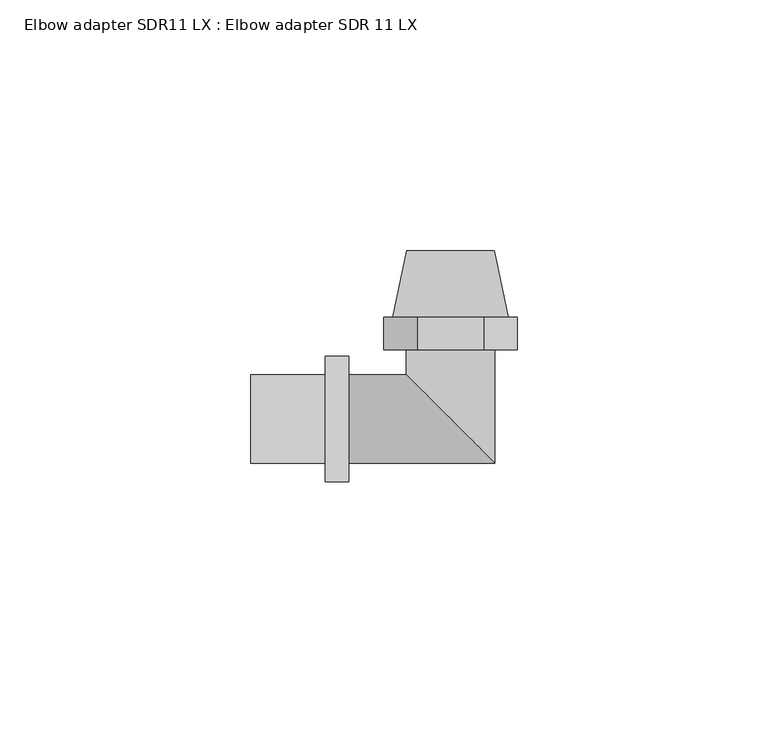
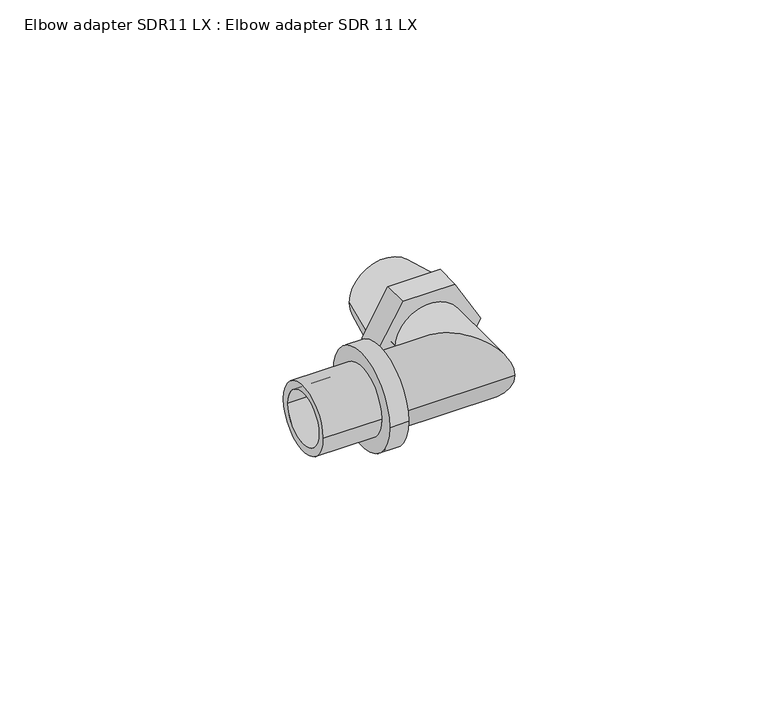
"""IFC4 building model written with IfcOpenShell, lengths in millimetres: pipe fitting geometry, Elbow adapter SDR11 LX : Elbow adapter SDR 11 LX."""

from ifc_helpers import new_model, si_unit, point, frame, origin, origin_2d, place, context, project, spatial, polyline, circle_curve, ellipse_curve, trimmed, segment, composite_curve, outline, extrude, source, transform, mapped, element, save
from ifc_brep_helpers import plane_surface, cylinder_surface, revolved_surface, advanced_brep


def elbow_adapter_sdr11_lx_elbow_adapter_sdr_11_lx_4b792a66(model_context):
    return source(origin(), model_context, "Body", "SolidModel", [
        extrude(outline(polyline([(0.0, -13.2790562), (-11.5, -6.6395281), (-11.5, 6.6395281), (0.0, 13.2790562), (11.5, 6.6395281), (11.5, -6.6395281), (0.0, -13.2790562)]), holes=[composite_curve([segment(trimmed(circle_curve(origin_2d(), 6.75), [point((-6.75, 0.0))], [point((6.75, 0.0))], True, "CARTESIAN"), True, "CONTINUOUS"), segment(trimmed(circle_curve(origin_2d(), 6.75), [point((6.75, 0.0))], [point((-6.75, 0.0))], True, "CARTESIAN"), True, "CONTINUOUS")], self_intersect=False)]), frame((0.0, 13.8, 0.0), z_axis=(0.0, 1.0, 0.0), x_axis=(0.0, 0.0, 1.0)), (0.0, 0.0, 1.0), 6.5),
        advanced_brep(
        [(8.75, 33.5, 0.0), (-8.75, 33.5, 0.0), (0.0, 33.5, 6.75), (0.0, 33.5, -6.75), (11.5, 20.3, 0.0), (-11.5, 20.3, 0.0), (0.0, 20.3, -6.75), (0.0, 20.3, 6.75)],
        [
            (0, 1, circle_curve(frame((0.0, 33.5, 0.0), z_axis=(0.0, 1.0, 0.0), x_axis=(1.0, 0.0, 0.0)), 8.75)),
            (1, 0, circle_curve(frame((0.0, 33.5, 0.0), z_axis=(0.0, 1.0, 0.0), x_axis=(-1.0, 0.0, 0.0)), 8.75)),
            (2, 3, circle_curve(frame((0.0, 33.5, 0.0), z_axis=(0.0, -1.0, 0.0), x_axis=(0.0, 0.0, 1.0)), 6.75)),
            (3, 2, circle_curve(frame((0.0, 33.5, 0.0), z_axis=(0.0, -1.0, 0.0), x_axis=(0.0, 0.0, 1.0)), 6.75)),
            (4, 5, circle_curve(frame((0.0, 20.3, 0.0), z_axis=(0.0, -1.0, 0.0), x_axis=(-1.0, 0.0, 0.0)), 11.5)),
            (5, 4, circle_curve(frame((0.0, 20.3, 0.0), z_axis=(0.0, -1.0, 0.0), x_axis=(1.0, 0.0, 0.0)), 11.5)),
            (6, 7, circle_curve(frame((0.0, 20.3, 0.0), z_axis=(0.0, 1.0, 0.0), x_axis=(0.0, 0.0, 1.0)), 6.75)),
            (7, 6, circle_curve(frame((0.0, 20.3, 0.0), z_axis=(0.0, 1.0, 0.0), x_axis=(0.0, 0.0, 1.0)), 6.75)),
            (0, 4),
            (5, 1),
            (6, 3),
            (2, 7),
        ],
        [
            plane_surface(frame((0.0, 33.5, 0.0), z_axis=(0.0, 1.0, 0.0), x_axis=(0.0, 0.0, -1.0))),
            plane_surface(frame((0.0, 20.3, 0.0), z_axis=(0.0, -1.0, 0.0), x_axis=(0.0, 0.0, -1.0))),
            revolved_surface(polyline([(8.75, 33.5, 0.0), (11.5, 20.299999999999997, 0.0)]), (0.0, 75.5, 0.0), (0.0, -1.0, 0.0)),
            revolved_surface(polyline([(-8.75, 33.5, 0.0), (-11.5, 20.299999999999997, 0.0)]), (0.0, 75.5, 0.0), (0.0, -1.0, 0.0)),
            revolved_surface(polyline([(0.0, 33.5, 6.75), (0.0, 20.3, 6.75)]), (0.0, 13.8, 0.0), (0.0, 1.0, 0.0)),
        ],
        [
            (0, [[1, 2], [3, 4]]),
            (1, [[5, 6], [7, 8]]),
            (2, [[-1, 9, -6, 10]]),
            (3, [[-2, -10, -5, -9]]),
            (4, [[11, -3, 12, -7]]),
            (4, [[-11, -8, -12, -4]]),
        ],
    ),
        advanced_brep(
        [(-20.3, -8.8, 0.0), (-20.3, 8.8, 0.0), (-20.3, -6.8, 0.0), (-20.3, 6.8, 0.0), (8.8, -8.8, 0.0), (-8.8, 8.8, 0.0), (6.8, -6.8, 0.0), (-6.8, 6.8, 0.0), (8.8, 20.3, 0.0), (-8.8, 20.3, 0.0), (6.8, 20.3, 0.0), (-6.8, 20.3, 0.0)],
        [
            (0, 1, circle_curve(frame((-20.3, 0.0, 0.0), z_axis=(-1.0, 0.0, 0.0), x_axis=(0.0, 1.0, 0.0)), 8.8)),
            (1, 0, circle_curve(frame((-20.3, 0.0, 0.0), z_axis=(-1.0, 0.0, 0.0), x_axis=(0.0, 1.0, 0.0)), 8.8)),
            (2, 3, circle_curve(frame((-20.3, 0.0, 0.0), z_axis=(1.0, 0.0, 0.0), x_axis=(0.0, 1.0, 0.0)), 6.8)),
            (3, 2, circle_curve(frame((-20.3, 0.0, 0.0), z_axis=(1.0, 0.0, 0.0), x_axis=(0.0, 1.0, 0.0)), 6.8)),
            (0, 4),
            (4, 5, ellipse_curve(frame((0.0, 0.0, 0.0), z_axis=(-0.7071067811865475, -0.7071067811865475, 0.0), x_axis=(-0.7071067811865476, 0.7071067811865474, 0.0)), 12.4450793, 8.8)),
            (5, 1),
            (5, 4, ellipse_curve(frame((0.0, 0.0, 0.0), z_axis=(-0.7071067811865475, -0.7071067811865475, 0.0), x_axis=(-0.7071067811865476, 0.7071067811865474, 0.0)), 12.4450793, 8.8)),
            (2, 6),
            (6, 7, ellipse_curve(frame((0.0, 0.0, 0.0), z_axis=(0.7071067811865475, 0.7071067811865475, 0.0), x_axis=(0.7071067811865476, -0.7071067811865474, 0.0)), 9.6166522, 6.8)),
            (7, 3),
            (7, 6, ellipse_curve(frame((0.0, 0.0, 0.0), z_axis=(0.7071067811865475, 0.7071067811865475, 0.0), x_axis=(0.7071067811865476, -0.7071067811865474, 0.0)), 9.6166522, 6.8)),
            (8, 9, circle_curve(frame((0.0, 20.3, 0.0), z_axis=(0.0, 1.0, 0.0), x_axis=(-1.0, 0.0, 0.0)), 8.8)),
            (9, 8, circle_curve(frame((0.0, 20.3, 0.0), z_axis=(0.0, 1.0, 0.0), x_axis=(-1.0, 0.0, 0.0)), 8.8)),
            (10, 11, circle_curve(frame((0.0, 20.3, 0.0), z_axis=(0.0, -1.0, 0.0), x_axis=(-1.0, 0.0, 0.0)), 6.8)),
            (11, 10, circle_curve(frame((0.0, 20.3, 0.0), z_axis=(0.0, -1.0, 0.0), x_axis=(-1.0, 0.0, 0.0)), 6.8)),
            (4, 8),
            (9, 5),
            (6, 10),
            (11, 7),
        ],
        [
            plane_surface(frame((-20.3, 0.0, 0.0), z_axis=(-1.0, 0.0, 0.0), x_axis=(0.0, 0.0, 1.0))),
            cylinder_surface(frame((-20.3, 0.0, 0.0), z_axis=(-1.0, 0.0, 0.0), x_axis=(0.0, 1.0, 0.0)), 8.8),
            revolved_surface(polyline([(6.800000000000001, 6.8, 0.0), (-20.3, 6.8, 0.0)]), (-20.3, 0.0, 0.0), (1.0, 0.0, 0.0)),
            plane_surface(frame((0.0, 20.3, 0.0), z_axis=(0.0, 1.0, 0.0), x_axis=(0.0, 0.0, 1.0))),
            cylinder_surface(frame((0.0, 0.0, 0.0), z_axis=(0.0, -1.0, 0.0), x_axis=(-1.0, 0.0, 0.0)), 8.8),
            revolved_surface(polyline([(-6.8, 20.3, 0.0), (-6.8, -6.8, 0.0)]), (0.0, 0.0, 0.0), (0.0, 1.0, 0.0)),
        ],
        [
            (0, [[1, 2], [3, 4]]),
            (1, [[-1, 5, 6, 7]]),
            (1, [[-2, -7, 8, -5]]),
            (2, [[-3, 9, 10, 11]]),
            (2, [[-4, -11, 12, -9]]),
            (3, [[13, 14], [15, 16]]),
            (4, [[-6, 17, -14, 18]]),
            (4, [[-8, -18, -13, -17]]),
            (5, [[-10, 19, -16, 20]]),
            (5, [[-12, -20, -15, -19]]),
        ],
    ),
        advanced_brep(
        [(-20.3, 12.5, 0.0), (-20.3, -12.5, 0.0), (-25.0, -12.5, 0.0), (-25.0, 12.5, 0.0), (-25.0, 8.8, 0.0), (-25.0, -8.8, 0.0), (-39.8, -8.8, 0.0), (-39.8, 8.8, 0.0), (-39.8, 6.8, 0.0), (-39.8, -6.8, 0.0), (-20.3, -6.8, 0.0), (-20.3, 6.8, 0.0)],
        [
            (0, 1, circle_curve(frame((-20.3, 0.0, 0.0), z_axis=(-1.0, 0.0, 0.0), x_axis=(0.0, -1.0, 0.0)), 12.5)),
            (1, 2),
            (2, 3, circle_curve(frame((-25.0, 0.0, 0.0), z_axis=(1.0, 0.0, 0.0), x_axis=(0.0, -1.0, 0.0)), 12.5)),
            (3, 0),
            (4, 5, circle_curve(frame((-25.0, 0.0, 0.0), z_axis=(-1.0, 0.0, 0.0), x_axis=(0.0, -1.0, 0.0)), 8.8)),
            (5, 6),
            (6, 7, circle_curve(frame((-39.8, 0.0, 0.0), z_axis=(1.0, 0.0, 0.0), x_axis=(0.0, -1.0, 0.0)), 8.8)),
            (7, 4),
            (8, 9, circle_curve(frame((-39.8, 0.0, 0.0), z_axis=(-1.0, 0.0, 0.0), x_axis=(0.0, -1.0, 0.0)), 6.8)),
            (9, 10),
            (10, 11, circle_curve(frame((-20.3, 0.0, 0.0), z_axis=(1.0, 0.0, 0.0), x_axis=(0.0, -1.0, 0.0)), 6.8)),
            (11, 8),
            (0, 1, circle_curve(frame((-20.3, 0.0, 0.0), z_axis=(1.0, 0.0, 0.0), x_axis=(0.0, 1.0, 0.0)), 12.5)),
            (10, 11, circle_curve(frame((-20.3, 0.0, 0.0), z_axis=(-1.0, 0.0, 0.0), x_axis=(0.0, 1.0, 0.0)), 6.8)),
            (3, 2, circle_curve(frame((-25.0, 0.0, 0.0), z_axis=(1.0, 0.0, 0.0), x_axis=(0.0, 1.0, 0.0)), 12.5)),
            (4, 5, circle_curve(frame((-25.0, 0.0, 0.0), z_axis=(1.0, 0.0, 0.0), x_axis=(0.0, 1.0, 0.0)), 8.8)),
            (7, 6, circle_curve(frame((-39.8, 0.0, 0.0), z_axis=(1.0, 0.0, 0.0), x_axis=(0.0, 1.0, 0.0)), 8.8)),
            (8, 9, circle_curve(frame((-39.8, 0.0, 0.0), z_axis=(1.0, 0.0, 0.0), x_axis=(0.0, 1.0, 0.0)), 6.8)),
        ],
        [
            cylinder_surface(frame((0.0, 0.0, 0.0), z_axis=(1.0, 0.0, 0.0), x_axis=(0.0, -1.0, 0.0)), 12.5),
            cylinder_surface(frame((0.0, 0.0, 0.0), z_axis=(1.0, 0.0, 0.0), x_axis=(0.0, -1.0, 0.0)), 8.8),
            revolved_surface(polyline([(-20.3, -6.8, 0.0), (-39.8, -6.8, 0.0)]), (0.0, 0.0, 0.0), (1.0, 0.0, 0.0)),
            plane_surface(frame((-20.3, 0.0, 0.0), z_axis=(1.0, 0.0, 0.0), x_axis=(0.0, 1.0, 0.0))),
            cylinder_surface(frame((0.0, 0.0, 0.0), z_axis=(1.0, 0.0, 0.0), x_axis=(0.0, 1.0, 0.0)), 12.5),
            plane_surface(frame((-25.0, 0.0, 0.0), z_axis=(-1.0, 0.0, 0.0), x_axis=(0.0, 1.0, 0.0))),
            cylinder_surface(frame((0.0, 0.0, 0.0), z_axis=(1.0, 0.0, 0.0), x_axis=(0.0, 1.0, 0.0)), 8.8),
            plane_surface(frame((-39.8, 0.0, 0.0), z_axis=(-1.0, 0.0, 0.0), x_axis=(0.0, 1.0, 0.0))),
            revolved_surface(polyline([(-20.3, 6.8, 0.0), (-39.8, 6.8, 0.0)]), (0.0, 0.0, 0.0), (1.0, 0.0, 0.0)),
        ],
        [
            (0, [[1, 2, 3, 4]]),
            (1, [[5, 6, 7, 8]]),
            (2, [[9, 10, 11, 12]]),
            (3, [[13, -1], [14, -11]]),
            (4, [[-13, -4, 15, -2]]),
            (5, [[-15, -3], [16, -5]]),
            (6, [[-16, -8, 17, -6]]),
            (7, [[-17, -7], [18, -9]]),
            (8, [[-18, -12, -14, -10]]),
        ],
    ),
    ])


if __name__ == "__main__":
    model = new_model("IFC4")
    model_context = context("Model", 3, world=origin())
    ifc_project = project(units=[si_unit("LENGTHUNIT", "METRE", prefix="MILLI")], contexts=[model_context])
    site = spatial("IfcSite", under=ifc_project)
    building = spatial("IfcBuilding", under=site)
    placement = place(None, origin())
    elbow_adapter_sdr11_lx_elbow_adapter_sdr_11_lx_shape = elbow_adapter_sdr11_lx_elbow_adapter_sdr_11_lx_4b792a66(model_context)
    element("IfcPipeFitting", 1, ObjectType="Elbow adapter SDR11 LX : Elbow adapter SDR 11 LX", at=placement, inside=building, context=model_context, shape_type="MappedRepresentation", body=[
        mapped(elbow_adapter_sdr11_lx_elbow_adapter_sdr_11_lx_shape, transform((0.0, 0.0, 0.0), x_axis=(1.0, 0.0, 0.0), y_axis=(0.0, 1.0, 0.0), z_axis=(0.0, 0.0, 1.0))),
    ])
    save(model, "model.ifc")
